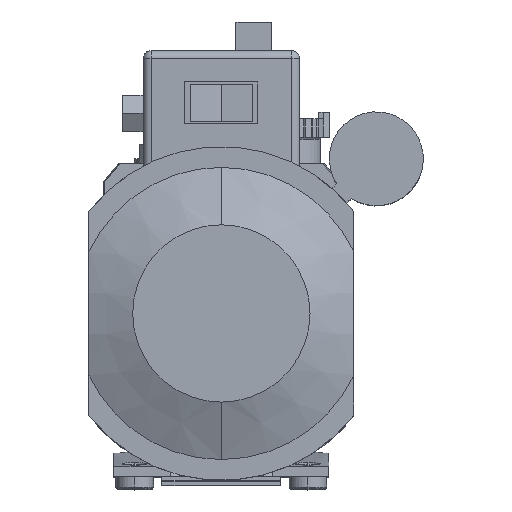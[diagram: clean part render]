
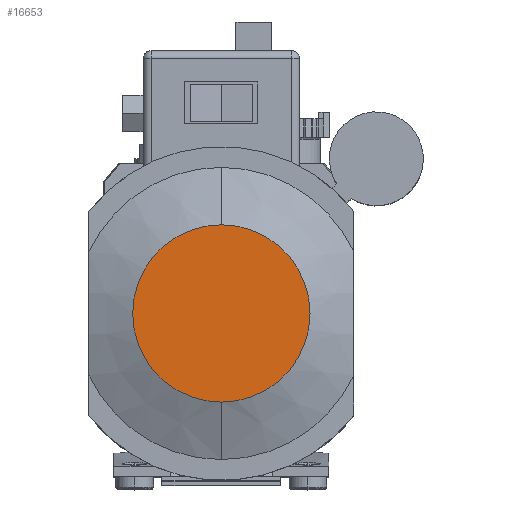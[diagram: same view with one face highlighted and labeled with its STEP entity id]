
A CAD part, top view. The second image highlights one B-rep face of the part: STEP entity #16653.
In plain terms, the highlighted planar face has unit normal (0, 0, 1) as drawn and (0, 0, -1) by its records, which use the part's own axes.
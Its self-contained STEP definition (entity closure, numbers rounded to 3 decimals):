
#15088=CARTESIAN_POINT('',(0.,0.,-202.5));
#15089=DIRECTION('',(0.,0.,-1.));
#15090=DIRECTION('',(0.,1.,0.));
#15091=AXIS2_PLACEMENT_3D('',#15088,#15089,#15090);
#15097=CARTESIAN_POINT('',(0.,0.,-202.5));
#15098=DIRECTION('',(0.,0.,1.));
#15099=DIRECTION('',(0.,1.,0.));
#15100=AXIS2_PLACEMENT_3D('',#15097,#15098,#15099);
#16310=CARTESIAN_POINT('',(0.,42.5,-202.5));
#16312=VERTEX_POINT('',#16310);
#16332=CARTESIAN_POINT('',(0.,-42.5,-202.5));
#16334=VERTEX_POINT('',#16332);
#16642=CARTESIAN_POINT('',(0.,0.,-202.5));
#16643=DIRECTION('',(0.,0.,1.));
#16644=DIRECTION('',(0.,1.,0.));
#16645=AXIS2_PLACEMENT_3D('',#16642,#16643,#16644);
#16646=PLANE('',#16645);
#16648=ORIENTED_EDGE('',*,*,#16647,.F.);
#16650=ORIENTED_EDGE('',*,*,#16649,.T.);
#16651=EDGE_LOOP('',(#16648,#16650));
#16652=FACE_OUTER_BOUND('',#16651,.F.);
#15092=CIRCLE('',#15091,42.5);
#15101=CIRCLE('',#15100,42.5);
#16647=EDGE_CURVE('',#16312,#16334,#15092,.T.);
#16649=EDGE_CURVE('',#16312,#16334,#15101,.T.);
#16653=ADVANCED_FACE('',(#16652),#16646,.F.);
